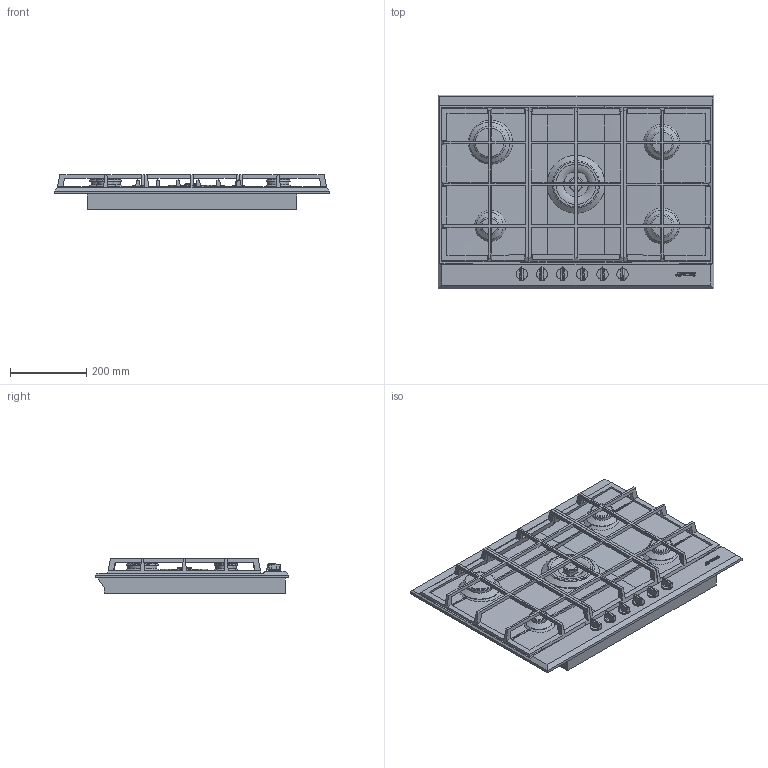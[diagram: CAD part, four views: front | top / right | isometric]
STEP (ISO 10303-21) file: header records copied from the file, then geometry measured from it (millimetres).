
FILE_DESCRIPTION(/* description */ (''),/* implementation_level */ '2;1');
FILE_NAME(/* name */ 'piano p272.stp',/* time_stamp */ '2018-05-21T10:35:51+02:00',/* author */ (''),/* organization */ (''),/* preprocessor_version */ 'ST-DEVELOPER v16',/* originating_system */ 'SIEMENS PLM Software NX 11.0',/* authorisation */ '');
FILE_SCHEMA (('AUTOMOTIVE_DESIGN { 1 0 10303 214 3 1 1 1 }'));
Length unit declared in the file: millimetre
Products named in the file (1): gobb0D1C07DC2g0y
Bounding box: 725.5 x 510 x 91 mm (x, y, z)
Volume: 13622790.6 mm3; surface area: 1918632.9 mm2
Topology: 32 solids, 32 shells, 584 faces, 1533 edges, 1012 vertices
Faces by surface type: plane 378, cylinder 90, bspline 62, cone 15, extrusion 15, torus 14, sphere 10
Full cylindrical faces by diameter (mm): 4.608 x6, 7 x8, 16 x6, 18 x1, 22.3 x1, 23 x6, 27 x6, 30 x6, 38 x1, 42 x1, 43 x1, 55 x2, 56 x2, 65.6 x1, 70.5 x1, 77.5 x1, 78.5 x1, 83 x2, 106 x1, 111 x1, 113.5 x1, 122.009 x1, 152 x1
Entity records: 19309 total; most frequent: CARTESIAN_POINT 5717, ORIENTED_EDGE 2746, DIRECTION 2509, EDGE_CURVE 1373, VERTEX_POINT 950, AXIS2_PLACEMENT_3D 852, VECTOR 805, LINE 790
